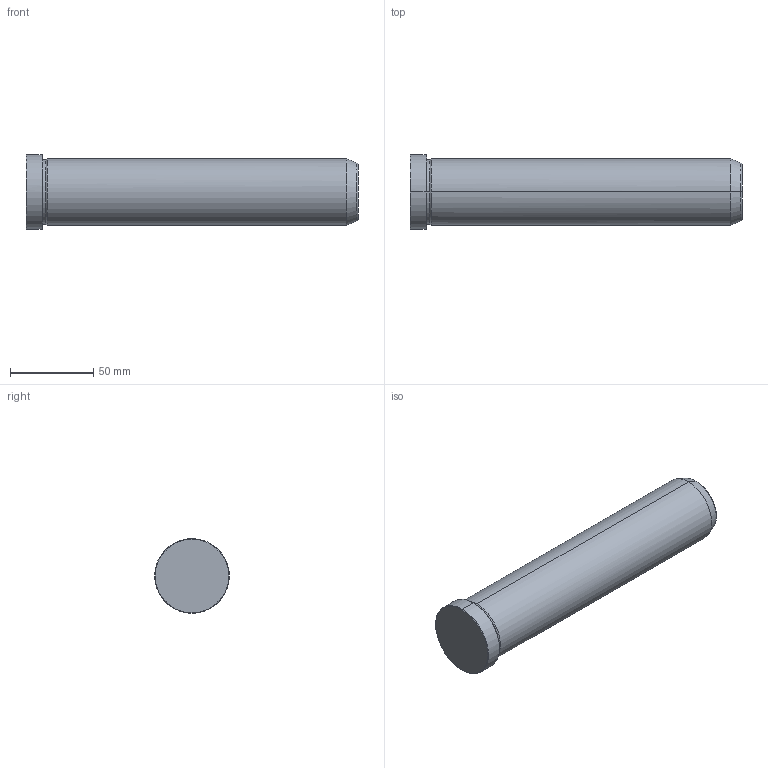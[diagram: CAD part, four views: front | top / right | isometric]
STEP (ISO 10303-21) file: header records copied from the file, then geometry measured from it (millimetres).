
FILE_DESCRIPTION(('CATIA V5 STEP Exchange'),'2;1');
FILE_NAME('C:\Users\Utente\Desktop\IO LAVORO\3D X SITO CF\X SITO\PLASTICA\549\549-40X200.stp','2021-12-18T08:14:31+00:00',('none'),('none'),'CATIA Version 5 Release 20 GA (IN-10)','CATIA V5 STEP AP203','none');
FILE_SCHEMA(('CONFIG_CONTROL_DESIGN'));
Length unit declared in the file: millimetre
Products named in the file (1): 549-40X200
Bounding box: 200 x 45 x 45 mm (x, y, z)
Volume: 253307.7 mm3; surface area: 28145.8 mm2
Topology: 1 solids, 1 shells, 19 faces, 56 edges, 40 vertices
Faces by surface type: cone 8, cylinder 6, plane 3, torus 2
Entity records: 736 total; most frequent: CARTESIAN_POINT 192, ORIENTED_EDGE 112, DIRECTION 86, EDGE_CURVE 56, AXIS2_PLACEMENT_3D 54, VERTEX_POINT 40, CIRCLE 34, EDGE_LOOP 20
